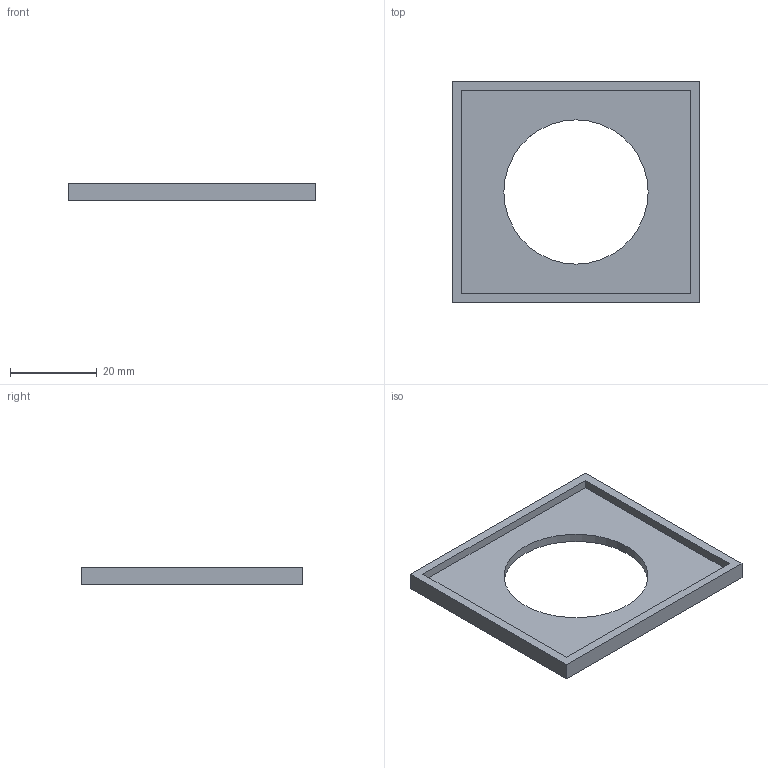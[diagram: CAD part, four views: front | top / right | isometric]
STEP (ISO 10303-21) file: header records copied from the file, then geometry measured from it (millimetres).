
FILE_DESCRIPTION(('FreeCAD Model'),'2;1');
FILE_NAME('Open CASCADE Shape Model','2026-11-20T08:25:39',('FreeCAD'),( 'FreeCAD'),'Open CASCADE STEP processor 7.8','FreeCAD','Unknown');
FILE_SCHEMA(('AUTOMOTIVE_DESIGN { 1 0 10303 214 1 1 1 1 }'));
Length unit declared in the file: millimetre
Products named in the file (1): Open CASCADE STEP translator 7.8 103
Bounding box: 57 x 51 x 4 mm (x, y, z)
Volume: 4954.5 mm3; surface area: 5553.6 mm2
Topology: 1 solids, 1 shells, 12 faces, 27 edges, 18 vertices
Faces by surface type: plane 11, cylinder 1
Full cylindrical faces by diameter (mm): 33.2 x1
Entity records: 347 total; most frequent: CARTESIAN_POINT 58, DIRECTION 55, ORIENTED_EDGE 54, EDGE_CURVE 27, LINE 25, VECTOR 25, VERTEX_POINT 18, AXIS2_PLACEMENT_3D 15
